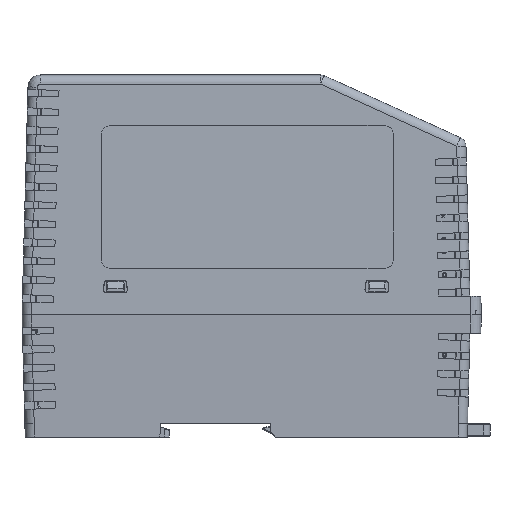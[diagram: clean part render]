
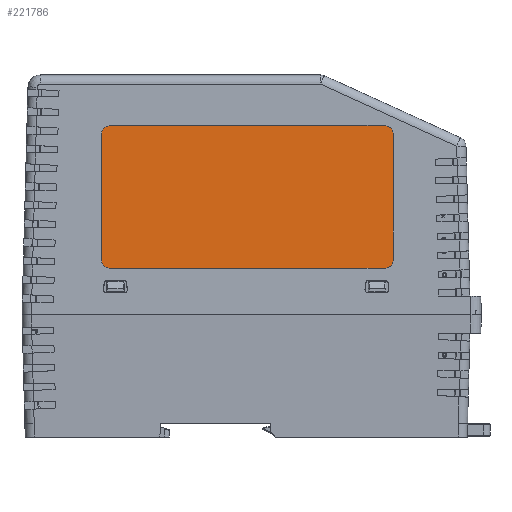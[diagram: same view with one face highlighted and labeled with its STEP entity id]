
A CAD part, left-side view. The second image highlights one B-rep face of the part: STEP entity #221786.
In plain terms, the highlighted planar face has unit normal (-1, 0, 0.026) as drawn and (1, 0, -0.026) by its records, which use the part's own axes.
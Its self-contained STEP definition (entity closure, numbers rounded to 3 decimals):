
#883 = LINE ( 'NONE', #69332, #24518 ) ;
#1556 = DIRECTION ( 'NONE',  ( 1., 0., -0.026 ) ) ;
#1978 = ORIENTED_EDGE ( 'NONE', *, *, #180246, .F. ) ;
#4380 = VECTOR ( 'NONE', #141537, 1000. ) ;
#11287 = ORIENTED_EDGE ( 'NONE', *, *, #95041, .F. ) ;
#13589 = VERTEX_POINT ( 'NONE', #205817 ) ;
#13766 = ORIENTED_EDGE ( 'NONE', *, *, #215287, .T. ) ;
#18049 = DIRECTION ( 'NONE',  ( 1., 0., -0.026 ) ) ;
#18280 = VERTEX_POINT ( 'NONE', #208157 ) ;
#19171 = CARTESIAN_POINT ( 'NONE',  ( 16.249, 43.532, 59.142 ) ) ;
#19318 = VERTEX_POINT ( 'NONE', #60302 ) ;
#19527 = DIRECTION ( 'NONE',  ( -0.026, 0., -1. ) ) ;
#24518 = VECTOR ( 'NONE', #108702, 1000. ) ;
#26458 = AXIS2_PLACEMENT_3D ( 'NONE', #103832, #1556, #19527 ) ;
#27535 = AXIS2_PLACEMENT_3D ( 'NONE', #212653, #113807, #128468 ) ;
#29741 = CARTESIAN_POINT ( 'NONE',  ( 15.125, -44.268, 16.236 ) ) ;
#30576 = LINE ( 'NONE', #64171, #208745 ) ;
#35196 = EDGE_CURVE ( 'NONE', #19318, #63232, #55056, .T. ) ;
#37992 = CARTESIAN_POINT ( 'NONE',  ( 16.249, 43.532, 59.142 ) ) ;
#41603 = EDGE_CURVE ( 'NONE', #18280, #19318, #83864, .T. ) ;
#43895 = ORIENTED_EDGE ( 'NONE', *, *, #35196, .T. ) ;
#47553 = CARTESIAN_POINT ( 'NONE',  ( 16.327, 43.532, 62.126 ) ) ;
#50728 = VERTEX_POINT ( 'NONE', #93157 ) ;
#54769 = PLANE ( 'NONE',  #123075 ) ;
#55056 = LINE ( 'NONE', #192227, #89007 ) ;
#56134 = CIRCLE ( 'NONE', #27535, 2.984 ) ;
#56473 = ORIENTED_EDGE ( 'NONE', *, *, #169940, .T. ) ;
#60302 = CARTESIAN_POINT ( 'NONE',  ( 16.249, -47.252, 59.142 ) ) ;
#63232 = VERTEX_POINT ( 'NONE', #158417 ) ;
#64171 = CARTESIAN_POINT ( 'NONE',  ( 16.249, 46.516, 59.142 ) ) ;
#64849 = DIRECTION ( 'NONE',  ( -0.026, 0., -1. ) ) ;
#69332 = CARTESIAN_POINT ( 'NONE',  ( 15.125, 43.532, 16.236 ) ) ;
#77301 = CARTESIAN_POINT ( 'NONE',  ( 16.327, 43.532, 62.126 ) ) ;
#77788 = ORIENTED_EDGE ( 'NONE', *, *, #87293, .T. ) ;
#83864 = CIRCLE ( 'NONE', #26458, 2.984 ) ;
#87293 = EDGE_CURVE ( 'NONE', #50728, #92288, #125803, .T. ) ;
#88404 = AXIS2_PLACEMENT_3D ( 'NONE', #218856, #202043, #64849 ) ;
#89007 = VECTOR ( 'NONE', #142794, 1000. ) ;
#89040 = EDGE_CURVE ( 'NONE', #50728, #13589, #30576, .T. ) ;
#89624 = DIRECTION ( 'NONE',  ( 1., 0., -0.026 ) ) ;
#89749 = LINE ( 'NONE', #77301, #4380 ) ;
#92288 = VERTEX_POINT ( 'NONE', #47553 ) ;
#93157 = CARTESIAN_POINT ( 'NONE',  ( 16.249, 46.516, 59.142 ) ) ;
#95041 = EDGE_CURVE ( 'NONE', #13589, #149437, #199612, .T. ) ;
#103832 = CARTESIAN_POINT ( 'NONE',  ( 16.249, -44.268, 59.142 ) ) ;
#106971 = CARTESIAN_POINT ( 'NONE',  ( 15.125, 43.532, 16.236 ) ) ;
#108557 = VERTEX_POINT ( 'NONE', #29741 ) ;
#108702 = DIRECTION ( 'NONE',  ( 0., -1., 0. ) ) ;
#113807 = DIRECTION ( 'NONE',  ( 1., 0., -0.026 ) ) ;
#115065 = AXIS2_PLACEMENT_3D ( 'NONE', #19171, #18049, #139451 ) ;
#120181 = FACE_OUTER_BOUND ( 'NONE', #146732, .T. ) ;
#123075 = AXIS2_PLACEMENT_3D ( 'NONE', #37992, #89624, #141404 ) ;
#125803 = CIRCLE ( 'NONE', #115065, 2.984 ) ;
#128468 = DIRECTION ( 'NONE',  ( -0.026, 0., -1. ) ) ;
#139451 = DIRECTION ( 'NONE',  ( -0.026, 0., -1. ) ) ;
#141404 = DIRECTION ( 'NONE',  ( -0.026, 0., -1. ) ) ;
#141537 = DIRECTION ( 'NONE',  ( 0., -1., 0. ) ) ;
#142794 = DIRECTION ( 'NONE',  ( -0.026, 0., -1. ) ) ;
#146732 = EDGE_LOOP ( 'NONE', ( #77788, #13766, #196313, #43895, #56473, #1978, #11287, #162931 ) ) ;
#149437 = VERTEX_POINT ( 'NONE', #106971 ) ;
#158417 = CARTESIAN_POINT ( 'NONE',  ( 15.203, -47.252, 19.219 ) ) ;
#162931 = ORIENTED_EDGE ( 'NONE', *, *, #89040, .F. ) ;
#169940 = EDGE_CURVE ( 'NONE', #63232, #108557, #56134, .T. ) ;
#180246 = EDGE_CURVE ( 'NONE', #149437, #108557, #883, .T. ) ;
#192227 = CARTESIAN_POINT ( 'NONE',  ( 16.249, -47.252, 59.142 ) ) ;
#196313 = ORIENTED_EDGE ( 'NONE', *, *, #41603, .T. ) ;
#199612 = CIRCLE ( 'NONE', #88404, 2.984 ) ;
#202043 = DIRECTION ( 'NONE',  ( -1., 0., 0.026 ) ) ;
#203561 = DIRECTION ( 'NONE',  ( -0.026, 0., -1. ) ) ;
#205817 = CARTESIAN_POINT ( 'NONE',  ( 15.203, 46.516, 19.219 ) ) ;
#208157 = CARTESIAN_POINT ( 'NONE',  ( 16.327, -44.268, 62.126 ) ) ;
#208745 = VECTOR ( 'NONE', #203561, 1000. ) ;
#212653 = CARTESIAN_POINT ( 'NONE',  ( 15.203, -44.268, 19.219 ) ) ;
#215287 = EDGE_CURVE ( 'NONE', #92288, #18280, #89749, .T. ) ;
#218856 = CARTESIAN_POINT ( 'NONE',  ( 15.203, 43.532, 19.219 ) ) ;
#221786 = ADVANCED_FACE ( 'NONE', ( #120181 ), #54769, .T. ) ;
